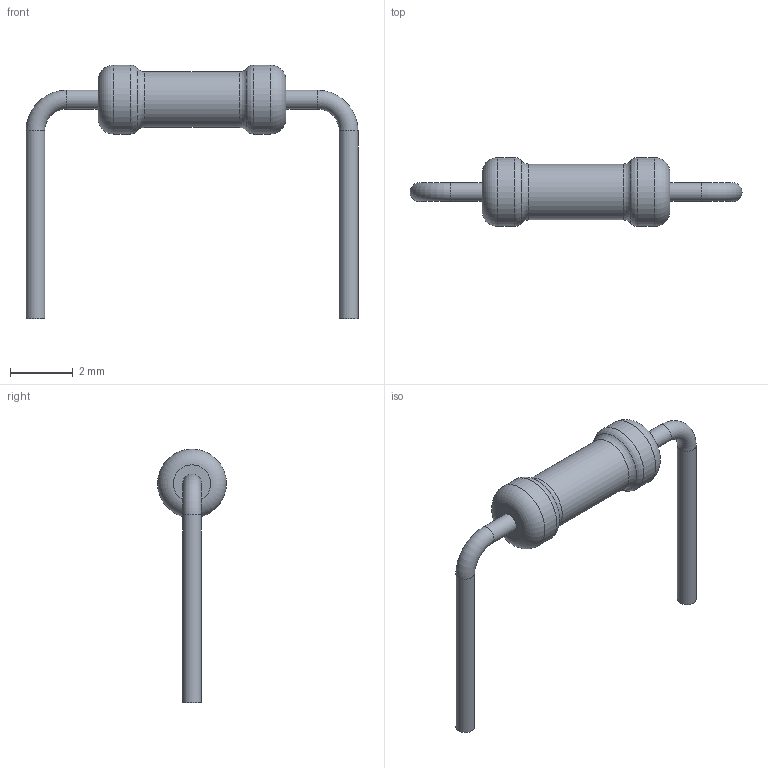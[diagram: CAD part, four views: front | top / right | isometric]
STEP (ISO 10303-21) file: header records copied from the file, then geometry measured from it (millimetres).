
FILE_DESCRIPTION(('STEP AP203'), '1');
FILE_NAME('C2-33-0.125', '', ('UNSPECIFIED'), ('UNSPECIFIED'), 'ASCON STEP Converter 1.6', 'ASCON Math Kernel', '');
FILE_SCHEMA(('CONFIG_CONTROL_DESIGN'));
Length unit declared in the file: millimetre
Bounding box: 10.6 x 2.2 x 8.1 mm (x, y, z)
Volume: 22.4 mm3; surface area: 74.4 mm2
Topology: 1 solids, 1 shells, 19 faces, 33 edges, 18 vertices
Faces by surface type: torus 8, cylinder 7, plane 4
Full cylindrical faces by diameter (mm): 0.6 x4, 1.776 x1, 2.2 x2
Entity records: 570 total; most frequent: DIRECTION 76, CARTESIAN_POINT 56, AXIS2_PLACEMENT_3D 38, EDGE_LOOP 36, ORIENTED_EDGE 36, FACE_OUTER_BOUND 30, COLOUR_RGB 20, FILL_AREA_STYLE_COLOUR 20
